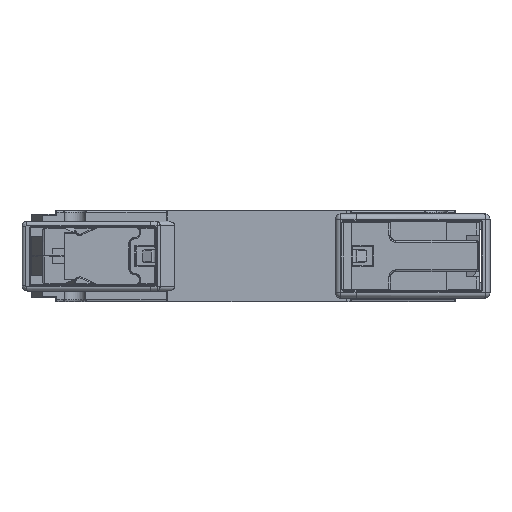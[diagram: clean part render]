
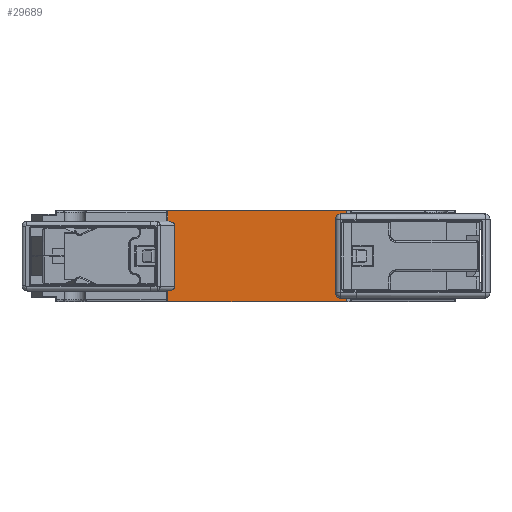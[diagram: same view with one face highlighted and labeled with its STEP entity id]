
A CAD part, front view. The second image highlights one B-rep face of the part: STEP entity #29689.
In plain terms, the highlighted planar face has unit normal (0, -1, 0).
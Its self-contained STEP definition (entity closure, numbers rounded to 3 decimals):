
#248 = LINE ( 'NONE', #250, #78762 ) ;
#250 = CARTESIAN_POINT ( 'NONE',  ( 60.556, -0.075, 7.308 ) ) ;
#251 = DIRECTION ( 'NONE',  ( 0., 0., -1. ) ) ;
#308 = LINE ( 'NONE', #316, #76594 ) ;
#316 = CARTESIAN_POINT ( 'NONE',  ( 60.556, -0.075, 6.701 ) ) ;
#318 = DIRECTION ( 'NONE',  ( -0.001, 0., -1. ) ) ;
#486 = LINE ( 'NONE', #490, #78546 ) ;
#490 = CARTESIAN_POINT ( 'NONE',  ( 25.945, -0.075, 7.308 ) ) ;
#493 = DIRECTION ( 'NONE',  ( 0., 0., 1. ) ) ;
#543 = LINE ( 'NONE', #548, #76598 ) ;
#548 = CARTESIAN_POINT ( 'NONE',  ( 25.651, -0.075, 7.308 ) ) ;
#551 = DIRECTION ( 'NONE',  ( 0., 0., 1. ) ) ;
#669 = LINE ( 'NONE', #672, #76596 ) ;
#672 = CARTESIAN_POINT ( 'NONE',  ( 26.052, -0.075, 3.547 ) ) ;
#674 = DIRECTION ( 'NONE',  ( 0., 0., 1. ) ) ;
#3707 = LINE ( 'NONE', #3715, #78492 ) ;
#3715 = CARTESIAN_POINT ( 'NONE',  ( 25.651, -0.075, -6.728 ) ) ;
#3719 = DIRECTION ( 'NONE',  ( -1., 0., 0. ) ) ;
#4238 = LINE ( 'NONE', #4254, #77911 ) ;
#4254 = CARTESIAN_POINT ( 'NONE',  ( 1.379, -0.075, 8.763 ) ) ;
#4257 = DIRECTION ( 'NONE',  ( 1., 0., 0. ) ) ;
#7831 = VECTOR ( 'NONE', #24461, 1000. ) ;
#15578 = EDGE_CURVE ( 'NONE', #50085, #50200, #24459, .T. ) ;
#17968 = EDGE_CURVE ( 'NONE', #49936, #50515, #3707, .T. ) ;
#18034 = EDGE_CURVE ( 'NONE', #50460, #50382, #4238, .T. ) ;
#18096 = EDGE_CURVE ( 'NONE', #50382, #50150, #248, .T. ) ;
#18101 = EDGE_CURVE ( 'NONE', #50150, #50062, #308, .T. ) ;
#18115 = EDGE_CURVE ( 'NONE', #50190, #49936, #486, .T. ) ;
#18120 = EDGE_CURVE ( 'NONE', #50515, #50085, #543, .T. ) ;
#18126 = EDGE_CURVE ( 'NONE', #50200, #50460, #669, .T. ) ;
#20010 = ORIENTED_EDGE ( 'NONE', *, *, #15578, .F. ) ;
#20011 = ORIENTED_EDGE ( 'NONE', *, *, #18120, .F. ) ;
#20013 = ORIENTED_EDGE ( 'NONE', *, *, #17968, .F. ) ;
#20015 = ORIENTED_EDGE ( 'NONE', *, *, #18115, .F. ) ;
#20017 = ORIENTED_EDGE ( 'NONE', *, *, #84399, .F. ) ;
#20019 = ORIENTED_EDGE ( 'NONE', *, *, #84491, .T. ) ;
#20021 = ORIENTED_EDGE ( 'NONE', *, *, #18101, .F. ) ;
#20022 = ORIENTED_EDGE ( 'NONE', *, *, #18096, .F. ) ;
#20024 = ORIENTED_EDGE ( 'NONE', *, *, #18034, .F. ) ;
#20026 = ORIENTED_EDGE ( 'NONE', *, *, #18126, .F. ) ;
#24459 = LINE ( 'NONE', #24460, #7831 ) ;
#24460 = CARTESIAN_POINT ( 'NONE',  ( -2.032, -0.075, 6.701 ) ) ;
#24461 = DIRECTION ( 'NONE',  ( 1., 0., 0. ) ) ;
#29689 = ADVANCED_FACE ( 'NONE', ( #73472 ), #73457, .F. ) ;
#29950 = LINE ( 'NONE', #29951, #78836 ) ;
#29951 = CARTESIAN_POINT ( 'NONE',  ( 64.057, -0.075, -8.763 ) ) ;
#29952 = DIRECTION ( 'NONE',  ( 1., 0., 0. ) ) ;
#38162 = CARTESIAN_POINT ( 'NONE',  ( 26.043, -0.075, -8.462 ) ) ;
#38164 = DIRECTION ( 'NONE',  ( 0., 1., 0. ) ) ;
#38166 = DIRECTION ( 'NONE',  ( 0., 0., -1. ) ) ;
#39175 = CARTESIAN_POINT ( 'NONE',  ( 25.945, -0.075, -6.728 ) ) ;
#39288 = CARTESIAN_POINT ( 'NONE',  ( 60.545, -0.075, -8.763 ) ) ;
#39307 = CARTESIAN_POINT ( 'NONE',  ( 25.651, -0.075, 6.701 ) ) ;
#39360 = CARTESIAN_POINT ( 'NONE',  ( 60.556, -0.075, 6.701 ) ) ;
#39390 = CARTESIAN_POINT ( 'NONE',  ( 25.945, -0.075, -8.747 ) ) ;
#39398 = CARTESIAN_POINT ( 'NONE',  ( 26.052, -0.075, 6.701 ) ) ;
#39547 = CARTESIAN_POINT ( 'NONE',  ( 60.556, -0.075, 8.763 ) ) ;
#39618 = CARTESIAN_POINT ( 'NONE',  ( 26.052, -0.075, 8.763 ) ) ;
#39680 = CARTESIAN_POINT ( 'NONE',  ( 25.651, -0.075, -6.728 ) ) ;
#41021 = CARTESIAN_POINT ( 'NONE',  ( 26.043, -0.075, -8.763 ) ) ;
#43953 = EDGE_LOOP ( 'NONE', ( #20010, #20011, #20013, #20015, #20017, #20019, #20021, #20022, #20024, #20026 ) ) ;
#49936 = VERTEX_POINT ( 'NONE', #39175 ) ;
#50062 = VERTEX_POINT ( 'NONE', #39288 ) ;
#50085 = VERTEX_POINT ( 'NONE', #39307 ) ;
#50150 = VERTEX_POINT ( 'NONE', #39360 ) ;
#50190 = VERTEX_POINT ( 'NONE', #39390 ) ;
#50200 = VERTEX_POINT ( 'NONE', #39398 ) ;
#50382 = VERTEX_POINT ( 'NONE', #39547 ) ;
#50460 = VERTEX_POINT ( 'NONE', #39618 ) ;
#50515 = VERTEX_POINT ( 'NONE', #39680 ) ;
#61314 = VERTEX_POINT ( 'NONE', #41021 ) ;
#73457 = PLANE ( 'NONE',  #80700 ) ;
#73472 = FACE_OUTER_BOUND ( 'NONE', #43953, .T. ) ;
#73482 = CARTESIAN_POINT ( 'NONE',  ( 86.132, -0.075, 7.308 ) ) ;
#73483 = DIRECTION ( 'NONE',  ( 0., 1., 0. ) ) ;
#73484 = DIRECTION ( 'NONE',  ( 0., 0., 1. ) ) ;
#76594 = VECTOR ( 'NONE', #318, 1000. ) ;
#76596 = VECTOR ( 'NONE', #674, 1000. ) ;
#76598 = VECTOR ( 'NONE', #551, 1000. ) ;
#77911 = VECTOR ( 'NONE', #4257, 1000. ) ;
#78492 = VECTOR ( 'NONE', #3719, 1000. ) ;
#78546 = VECTOR ( 'NONE', #493, 1000. ) ;
#78762 = VECTOR ( 'NONE', #251, 1000. ) ;
#78836 = VECTOR ( 'NONE', #29952, 1000. ) ;
#80700 = AXIS2_PLACEMENT_3D ( 'NONE', #73482, #73483, #73484 ) ;
#84399 = EDGE_CURVE ( 'NONE', #61314, #50190, #85988, .T. ) ;
#84491 = EDGE_CURVE ( 'NONE', #61314, #50062, #29950, .T. ) ;
#85987 = AXIS2_PLACEMENT_3D ( 'NONE', #38162, #38164, #38166 ) ;
#85988 = CIRCLE ( 'NONE', #85987, 0.301 ) ;
